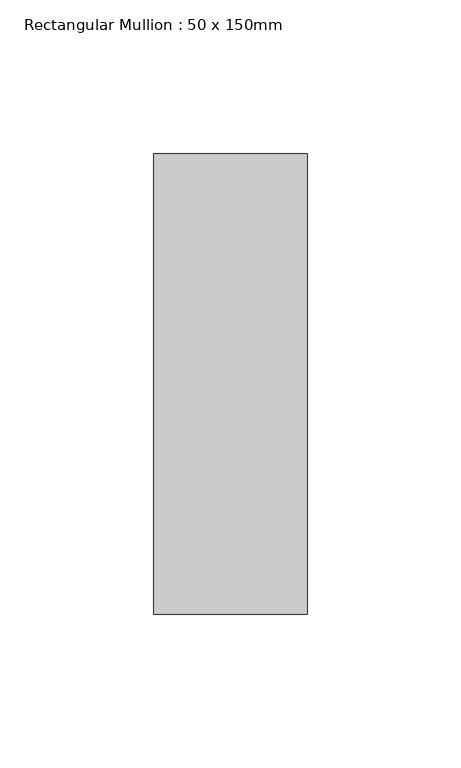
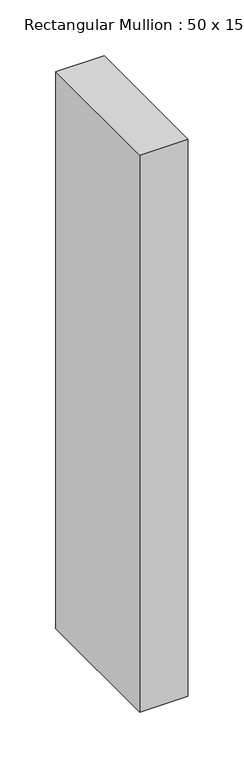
"""IFC4 building model written with IfcOpenShell, lengths in millimetres: member geometry, Rectangular Mullion : 50 x 150mm."""

from ifc_helpers import new_model, si_unit, frame, origin, place, context, project, spatial, polyline, outline, extrude, source, transform, mapped, element, save


def rectangular_mullion_50_x_150mm_94435dd6(model_context):
    return source(origin(), model_context, "Body", "SweptSolid", [
        extrude(outline(polyline([(25.0, 75.0), (25.0, -75.0), (-25.0, -75.0), (-25.0, 75.0), (25.0, 75.0)])), frame((0.0, 0.0, -609.1666669), z_axis=(0.0, 0.0, 1.0), x_axis=(1.0, 0.0, 0.0)), (0.0, 0.0, 1.0), 609.1666669),
    ])


if __name__ == "__main__":
    model = new_model("IFC4")
    model_context = context("Model", 3, world=origin())
    ifc_project = project(units=[si_unit("LENGTHUNIT", "METRE", prefix="MILLI")], contexts=[model_context])
    site = spatial("IfcSite", under=ifc_project)
    building = spatial("IfcBuilding", under=site)
    placement = place(None, origin())
    rectangular_mullion_50_x_150mm_shape = rectangular_mullion_50_x_150mm_94435dd6(model_context)
    element("IfcMember", 1, ObjectType="Rectangular Mullion : 50 x 150mm", at=placement, inside=building, context=model_context, shape_type="MappedRepresentation", body=[
        mapped(rectangular_mullion_50_x_150mm_shape, transform((0.0, 0.0, 0.0), x_axis=(1.0, 0.0, 0.0), y_axis=(0.0, 1.0, 0.0), z_axis=(0.0, 0.0, 1.0))),
    ])
    save(model, "model.ifc")
